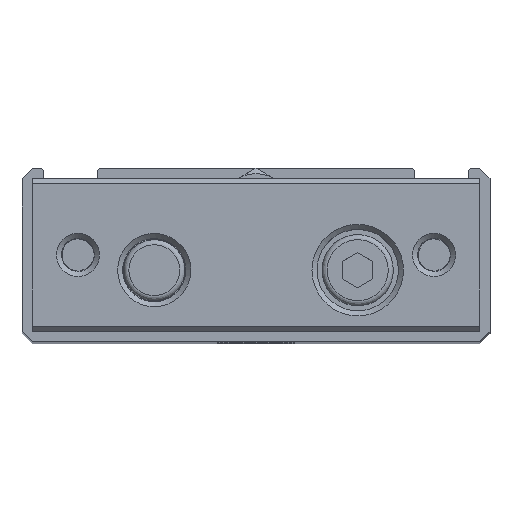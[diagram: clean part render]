
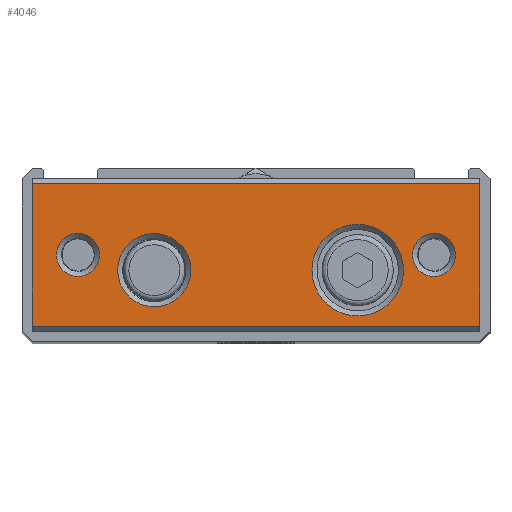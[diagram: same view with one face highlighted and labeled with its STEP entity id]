
A CAD part, top view. The second image highlights one B-rep face of the part: STEP entity #4046.
In plain terms, the highlighted planar face has unit normal (0, 0, 1).
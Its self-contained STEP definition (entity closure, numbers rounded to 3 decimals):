
#3142=CARTESIAN_POINT('',(22.0,7.0,139.));
#3143=VERTEX_POINT('',#3142);
#3151=CARTESIAN_POINT('',(-22.0,7.0,139.));
#3152=VERTEX_POINT('',#3151);
#3159=CARTESIAN_POINT('',(-22.0,7.0,139.));
#3160=DIRECTION('',(1.0,0.0,0.0));
#3161=VECTOR('',#3160,44.0);
#3162=LINE('',#3159,#3161);
#3163=EDGE_CURVE('',#3152,#3143,#3162,.T.);
#3239=CARTESIAN_POINT('',(-22.0,-7.0,139.));
#3240=VERTEX_POINT('',#3239);
#3247=CARTESIAN_POINT('',(-22.0,7.0,139.));
#3248=DIRECTION('',(0.0,-1.0,0.0));
#3249=VECTOR('',#3248,14.0);
#3250=LINE('',#3247,#3249);
#3251=EDGE_CURVE('',#3152,#3240,#3250,.T.);
#3403=CARTESIAN_POINT('',(22.0,-7.0,139.));
#3404=VERTEX_POINT('',#3403);
#3405=CARTESIAN_POINT('',(22.0,-7.0,139.));
#3406=DIRECTION('',(0.0,1.0,0.0));
#3407=VECTOR('',#3406,14.0);
#3408=LINE('',#3405,#3407);
#3409=EDGE_CURVE('',#3404,#3143,#3408,.T.);
#3982=CARTESIAN_POINT('',(14.5,-1.5,139.));
#3983=VERTEX_POINT('',#3982);
#3984=CARTESIAN_POINT('',(10.0,-1.5,139.));
#3985=DIRECTION('',(0.0,0.0,1.0));
#3986=DIRECTION('',(-1.0,0.0,0.0));
#3987=AXIS2_PLACEMENT_3D('',#3984,#3985,#3986);
#3988=CIRCLE('',#3987,4.5);
#3989=EDGE_CURVE('',#3983,#3983,#3988,.T.);
#3994=CARTESIAN_POINT('',(0.0,-7.5,139.));
#3995=DIRECTION('',(0.0,0.0,1.0));
#3996=DIRECTION('',(1.0,0.0,0.0));
#3997=AXIS2_PLACEMENT_3D('',#3994,#3995,#3996);
#3998=PLANE('',#3997);
#3999=ORIENTED_EDGE('',*,*,#3163,.F.);
#4000=ORIENTED_EDGE('',*,*,#3251,.T.);
#4001=CARTESIAN_POINT('',(22.0,-7.0,139.));
#4002=DIRECTION('',(-1.0,0.0,0.0));
#4003=VECTOR('',#4002,44.0);
#4004=LINE('',#4001,#4003);
#4005=EDGE_CURVE('',#3404,#3240,#4004,.T.);
#4006=ORIENTED_EDGE('',*,*,#4005,.F.);
#4007=ORIENTED_EDGE('',*,*,#3409,.T.);
#4008=EDGE_LOOP('',(#3999,#4000,#4006,#4007));
#4009=FACE_OUTER_BOUND('',#4008,.T.);
#4010=CARTESIAN_POINT('',(-6.4,-1.5,139.));
#4011=VERTEX_POINT('',#4010);
#4012=CARTESIAN_POINT('',(-10.0,-1.5,139.));
#4013=DIRECTION('',(0.0,0.0,1.0));
#4014=DIRECTION('',(-1.0,0.0,0.0));
#4015=AXIS2_PLACEMENT_3D('',#4012,#4013,#4014);
#4016=CIRCLE('',#4015,3.6);
#4017=EDGE_CURVE('',#4011,#4011,#4016,.T.);
#4018=ORIENTED_EDGE('',*,*,#4017,.F.);
#4019=EDGE_LOOP('',(#4018));
#4020=FACE_BOUND('',#4019,.T.);
#4021=CARTESIAN_POINT('',(19.621,0.,139.));
#4022=VERTEX_POINT('',#4021);
#4023=CARTESIAN_POINT('',(17.5,0.0,139.));
#4024=DIRECTION('',(0.0,0.0,1.0));
#4025=DIRECTION('',(-1.0,0.0,0.0));
#4026=AXIS2_PLACEMENT_3D('',#4023,#4024,#4025);
#4027=CIRCLE('',#4026,2.121);
#4028=EDGE_CURVE('',#4022,#4022,#4027,.T.);
#4029=ORIENTED_EDGE('',*,*,#4028,.F.);
#4030=EDGE_LOOP('',(#4029));
#4031=FACE_BOUND('',#4030,.T.);
#4032=CARTESIAN_POINT('',(-15.379,0.,139.));
#4033=VERTEX_POINT('',#4032);
#4034=CARTESIAN_POINT('',(-17.5,0.0,139.));
#4035=DIRECTION('',(0.0,0.0,1.0));
#4036=DIRECTION('',(-1.0,0.0,0.0));
#4037=AXIS2_PLACEMENT_3D('',#4034,#4035,#4036);
#4038=CIRCLE('',#4037,2.121);
#4039=EDGE_CURVE('',#4033,#4033,#4038,.T.);
#4040=ORIENTED_EDGE('',*,*,#4039,.F.);
#4041=EDGE_LOOP('',(#4040));
#4042=FACE_BOUND('',#4041,.T.);
#4043=ORIENTED_EDGE('',*,*,#3989,.F.);
#4044=EDGE_LOOP('',(#4043));
#4045=FACE_BOUND('',#4044,.T.);
#4046=ADVANCED_FACE('',(#4009,#4020,#4031,#4042,#4045),#3998,.T.);
